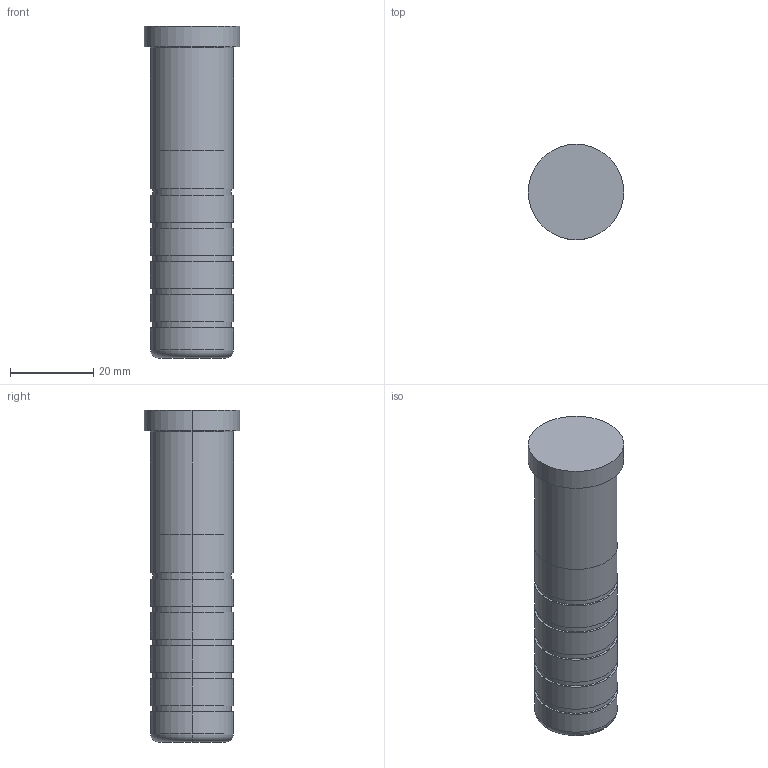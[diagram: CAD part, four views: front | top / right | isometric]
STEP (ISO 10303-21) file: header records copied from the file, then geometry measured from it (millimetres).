
FILE_DESCRIPTION(/* description */ (''),/* implementation_level */ '2;1');
FILE_NAME(/* name */ '3d_sgoh20-80_05194_r00.stp',/* time_stamp */ '2011-01-10T14:11:08+09:00',/* author */ ('MISUMI'),/* organization */ (''),/* preprocessor_version */ 'ST-DEVELOPER v11',/* originating_system */ 'UGS - NX 5.0',/* authorisation */ '');
FILE_SCHEMA (('CONFIG_CONTROL_DESIGN'));
Length unit declared in the file: millimetre
Products named in the file (1): 3d_sgoh20-80_05194_r00
Bounding box: 23 x 23 x 80 mm (x, y, z)
Volume: 25358.9 mm3; surface area: 6124.9 mm2
Topology: 1 solids, 1 shells, 43 faces, 84 edges, 54 vertices
Faces by surface type: cylinder 26, plane 13, torus 4
Entity records: 1214 total; most frequent: DIRECTION 230, CARTESIAN_POINT 182, ORIENTED_EDGE 168, AXIS2_PLACEMENT_3D 102, EDGE_CURVE 84, CIRCLE 58, EDGE_LOOP 54, VERTEX_POINT 54
